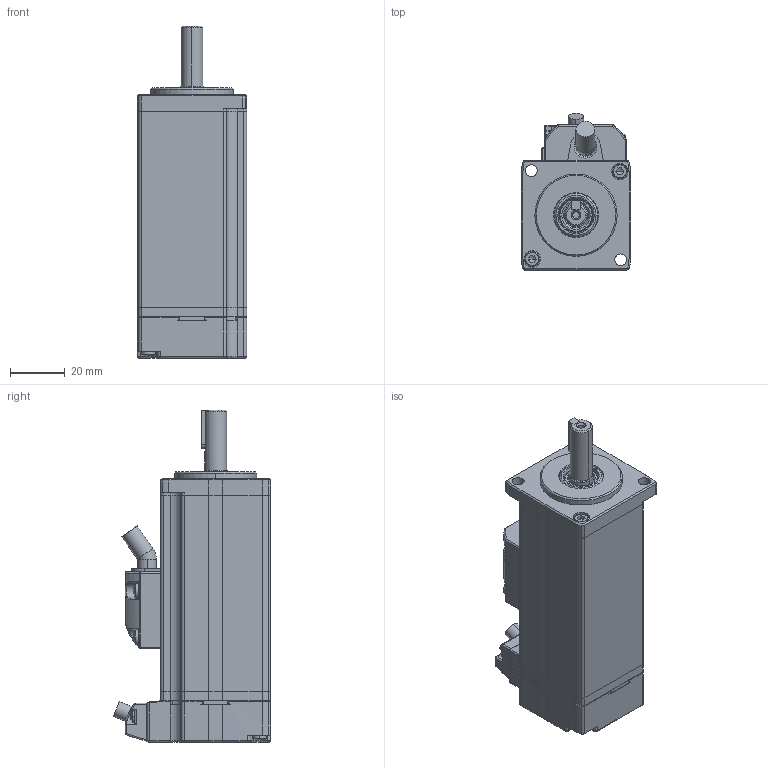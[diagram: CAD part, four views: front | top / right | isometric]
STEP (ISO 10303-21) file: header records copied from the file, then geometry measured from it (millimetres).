
FILE_DESCRIPTION (( 'STEP AP214' ), '1' );
FILE_NAME ('UMM-0000BAB-B4.STEP', '2019-05-22T07:00:33', ( '' ), ( '' ), 'SwSTEP 2.0', 'SolidWorks 2017', '' );
FILE_SCHEMA (( 'AUTOMOTIVE_DESIGN' ));
Length unit declared in the file: millimetre
Products named in the file (1): UMM-0000BAB-B4
Bounding box: 40 x 57.22 x 121 mm (x, y, z)
Surface area: 25551.7 mm2 (no closed solid volume)
Topology: 0 solids, 26 shells, 562 faces, 1637 edges, 1072 vertices
Faces by surface type: cylinder 212, plane 207, bspline 99, cone 44
Entity records: 24059 total; most frequent: CARTESIAN_POINT 10300, ORIENTED_EDGE 2797, DIRECTION 2705, EDGE_CURVE 1617, VERTEX_POINT 1072, AXIS2_PLACEMENT_3D 1006, VECTOR 693, LINE 693
